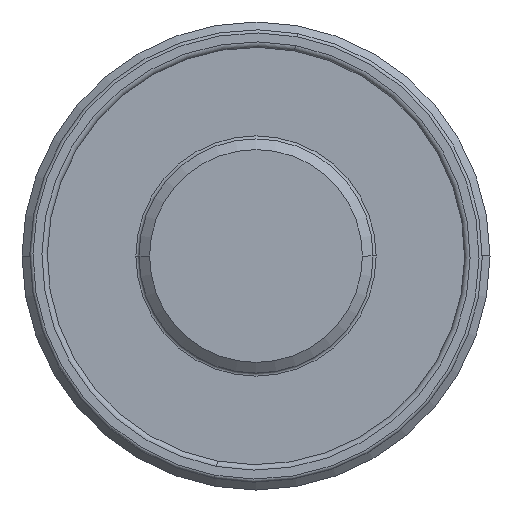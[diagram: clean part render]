
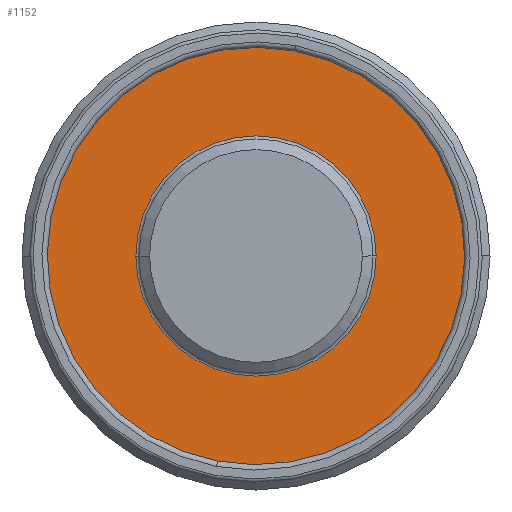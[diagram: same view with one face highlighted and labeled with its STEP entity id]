
A CAD part, front view. The second image highlights one B-rep face of the part: STEP entity #1152.
In plain terms, the highlighted planar face has unit normal (0, -1, 0).
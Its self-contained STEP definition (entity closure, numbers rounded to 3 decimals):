
#799=PLANE('',#2834);
#833=FACE_BOUND('',#1434,.T.);
#834=FACE_BOUND('',#1435,.T.);
#1152=ADVANCED_FACE('',(#833,#834),#799,.F.);
#1434=EDGE_LOOP('',(#1779,#1780));
#1435=EDGE_LOOP('',(#1781,#1782));
#1779=ORIENTED_EDGE('',*,*,#2360,.T.);
#1780=ORIENTED_EDGE('',*,*,#2350,.T.);
#1781=ORIENTED_EDGE('',*,*,#2361,.T.);
#1782=ORIENTED_EDGE('',*,*,#2351,.T.);
#2132=VERTEX_POINT('',#4063);
#2134=VERTEX_POINT('',#4067);
#2135=VERTEX_POINT('',#4071);
#2136=VERTEX_POINT('',#4072);
#2350=EDGE_CURVE('',#2132,#2134,#2589,.T.);
#2351=EDGE_CURVE('',#2135,#2136,#2590,.T.);
#2360=EDGE_CURVE('',#2134,#2132,#2595,.T.);
#2361=EDGE_CURVE('',#2136,#2135,#2596,.T.);
#2589=CIRCLE('',#2822,15.4);
#2590=CIRCLE('',#2824,28.6);
#2595=CIRCLE('',#2832,15.4);
#2596=CIRCLE('',#2833,28.6);
#2822=AXIS2_PLACEMENT_3D('',#4068,#3313,#3314);
#2824=AXIS2_PLACEMENT_3D('',#4070,#3317,#3318);
#2832=AXIS2_PLACEMENT_3D('',#4088,#3337,#3338);
#2833=AXIS2_PLACEMENT_3D('',#4089,#3339,#3340);
#2834=AXIS2_PLACEMENT_3D('',#4090,#3341,#3342);
#3313=DIRECTION('',(0.,1.,0.));
#3314=DIRECTION('',(-1.,0.,0.));
#3317=DIRECTION('',(0.,-1.,0.));
#3318=DIRECTION('',(-1.,0.,0.));
#3337=DIRECTION('',(0.,1.,0.));
#3338=DIRECTION('',(-1.,0.,0.));
#3339=DIRECTION('',(0.,-1.,0.));
#3340=DIRECTION('',(-1.,0.,0.));
#3341=DIRECTION('',(0.,1.,0.));
#3342=DIRECTION('',(-1.,0.,0.));
#4063=CARTESIAN_POINT('',(15.4,26.6,0.));
#4067=CARTESIAN_POINT('',(-15.4,26.6,0.));
#4068=CARTESIAN_POINT('',(0.,26.6,0.));
#4070=CARTESIAN_POINT('',(0.,26.6,0.));
#4071=CARTESIAN_POINT('',(28.6,26.6,0.));
#4072=CARTESIAN_POINT('',(-28.6,26.6,0.));
#4088=CARTESIAN_POINT('',(0.,26.6,0.));
#4089=CARTESIAN_POINT('',(0.,26.6,0.));
#4090=CARTESIAN_POINT('',(28.8,26.6,0.));
